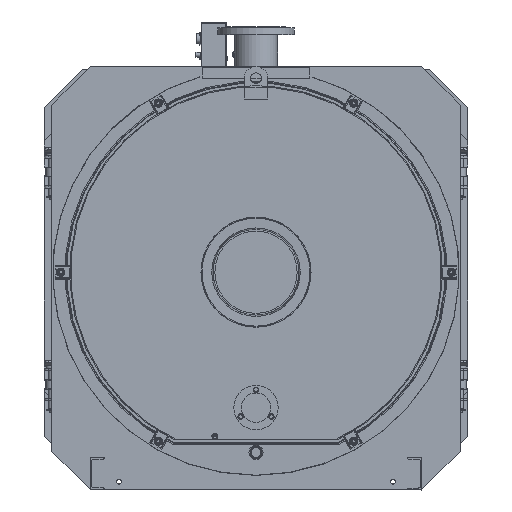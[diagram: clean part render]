
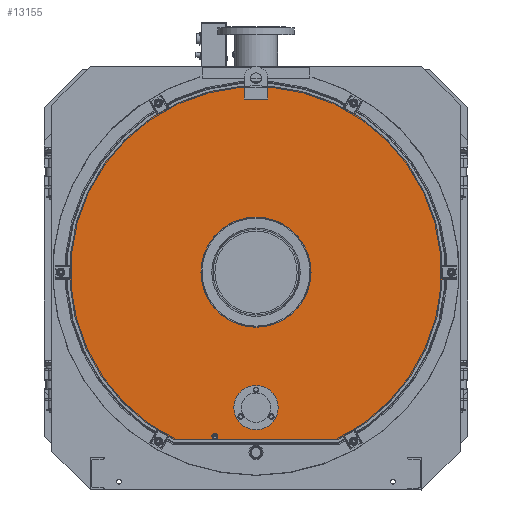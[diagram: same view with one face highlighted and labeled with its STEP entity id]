
A CAD part, left-side view. The second image highlights one B-rep face of the part: STEP entity #13155.
In plain terms, the highlighted planar face has unit normal (-1, 0, 0).
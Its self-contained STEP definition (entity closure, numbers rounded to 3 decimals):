
#13155=ADVANCED_FACE('',(#48461,#48463,#48465),#48467,.T.);
#48461=FACE_BOUND('',#48462,.T.);
#48462=EDGE_LOOP('',(#78277,#78278,#78279,#78280,#78281,#78282,#78283,#78284,#78285,
#78286));
#48463=FACE_BOUND('',#48464,.T.);
#48464=EDGE_LOOP('',(#78287));
#48465=FACE_BOUND('',#48466,.T.);
#48466=EDGE_LOOP('',(#78288));
#48467=PLANE('',#48468);
#48468=AXIS2_PLACEMENT_3D('',#48469,#48470,#48471);
#48469=CARTESIAN_POINT('',(-2921.,0.,0.));
#48470=DIRECTION('',(-1.,0.,0.));
#48471=DIRECTION('',(0.,-1.,0.));
#78277=ORIENTED_EDGE('',*,*,#90679,.F.);
#78278=ORIENTED_EDGE('',*,*,#90680,.F.);
#78279=ORIENTED_EDGE('',*,*,#90681,.F.);
#78280=ORIENTED_EDGE('',*,*,#90635,.T.);
#78281=ORIENTED_EDGE('',*,*,#90650,.T.);
#78282=ORIENTED_EDGE('',*,*,#90647,.T.);
#78283=ORIENTED_EDGE('',*,*,#90645,.T.);
#78284=ORIENTED_EDGE('',*,*,#90643,.T.);
#78285=ORIENTED_EDGE('',*,*,#90641,.T.);
#78286=ORIENTED_EDGE('',*,*,#90637,.T.);
#78287=ORIENTED_EDGE('',*,*,#90664,.T.);
#78288=ORIENTED_EDGE('',*,*,#90682,.F.);
#90635=EDGE_CURVE('',#100558,#100556,#100559,.T.);
#90637=EDGE_CURVE('',#100562,#100560,#100563,.T.);
#90641=EDGE_CURVE('',#100568,#100562,#100569,.T.);
#90643=EDGE_CURVE('',#100571,#100568,#100572,.F.);
#90645=EDGE_CURVE('',#100574,#100571,#100575,.F.);
#90647=EDGE_CURVE('',#100577,#100574,#100578,.F.);
#90650=EDGE_CURVE('',#100556,#100577,#100581,.T.);
#90664=EDGE_CURVE('',#100608,#100608,#100609,.F.);
#90679=EDGE_CURVE('',#100634,#100560,#100635,.T.);
#90680=EDGE_CURVE('',#100636,#100634,#100637,.T.);
#90681=EDGE_CURVE('',#100558,#100636,#100638,.T.);
#90682=EDGE_CURVE('',#100639,#100639,#100640,.T.);
#100556=VERTEX_POINT('',#131058);
#100558=VERTEX_POINT('',#131062);
#100559=CIRCLE('',#131063,680.);
#100560=VERTEX_POINT('',#131067);
#100562=VERTEX_POINT('',#131072);
#100563=CIRCLE('',#131073,680.);
#100568=VERTEX_POINT('',#131088);
#100569=LINE('',#131089,#131090);
#100571=VERTEX_POINT('',#131095);
#100572=LINE('',#131096,#131097);
#100574=VERTEX_POINT('',#131102);
#100575=CIRCLE('',#131103,11.);
#100577=VERTEX_POINT('',#131110);
#100578=LINE('',#131111,#131112);
#100581=LINE('',#131120,#131121);
#100608=VERTEX_POINT('',#131696);
#100609=CIRCLE('',#131697,201.);
#100634=VERTEX_POINT('',#132079);
#100635=LINE('',#132080,#132081);
#100636=VERTEX_POINT('',#132083);
#100637=LINE('',#132084,#132085);
#100638=LINE('',#132087,#132088);
#100639=VERTEX_POINT('',#132090);
#100640=CIRCLE('',#132091,81.);
#131058=CARTESIAN_POINT('',(-2921.,301.512,-609.5));
#131062=CARTESIAN_POINT('',(-2921.,43.,678.639));
#131063=AXIS2_PLACEMENT_3D('',#131064,#131065,#131066);
#131064=CARTESIAN_POINT('',(-2921.,0.,0.));
#131065=DIRECTION('',(-1.,0.,0.));
#131066=DIRECTION('',(0.,0.063,0.998));
#131067=CARTESIAN_POINT('',(-2921.,-43.,678.639));
#131072=CARTESIAN_POINT('',(-2921.,-301.512,-609.5));
#131073=AXIS2_PLACEMENT_3D('',#131074,#131075,#131076);
#131074=CARTESIAN_POINT('',(-2921.,0.,0.));
#131075=DIRECTION('',(-1.,0.,0.));
#131076=DIRECTION('',(0.,-0.443,-0.896));
#131088=CARTESIAN_POINT('',(-2921.,145.417,-609.5));
#131089=CARTESIAN_POINT('',(-2921.,145.417,-609.5));
#131090=VECTOR('',#131091,1.);
#131091=DIRECTION('',(0.,-1.,0.));
#131095=CARTESIAN_POINT('',(-2921.,145.417,-608.5));
#131096=CARTESIAN_POINT('',(-2921.,145.417,-609.5));
#131097=VECTOR('',#131098,1.);
#131098=DIRECTION('',(0.,0.,1.));
#131102=CARTESIAN_POINT('',(-2921.,154.583,-608.5));
#131103=AXIS2_PLACEMENT_3D('',#131104,#131105,#131106);
#131104=CARTESIAN_POINT('',(-2921.,150.,-598.5));
#131105=DIRECTION('',(-1.,0.,0.));
#131106=DIRECTION('',(0.,-0.417,-0.909));
#131110=CARTESIAN_POINT('',(-2921.,154.583,-609.5));
#131111=CARTESIAN_POINT('',(-2921.,154.583,-608.5));
#131112=VECTOR('',#131113,1.);
#131113=DIRECTION('',(0.,0.,-1.));
#131120=CARTESIAN_POINT('',(-2921.,301.512,-609.5));
#131121=VECTOR('',#131122,1.);
#131122=DIRECTION('',(0.,-1.,0.));
#131696=CARTESIAN_POINT('',(-2921.,-201.,0.));
#131697=AXIS2_PLACEMENT_3D('',#131698,#131699,#131700);
#131698=CARTESIAN_POINT('',(-2921.,0.,0.));
#131699=DIRECTION('',(-1.,0.,0.));
#131700=DIRECTION('',(0.,-1.,0.));
#132079=CARTESIAN_POINT('',(-2921.,-43.,632.));
#132080=CARTESIAN_POINT('',(-2921.,-43.,632.));
#132081=VECTOR('',#132082,1.);
#132082=DIRECTION('',(0.,0.,1.));
#132083=CARTESIAN_POINT('',(-2921.,43.,632.));
#132084=CARTESIAN_POINT('',(-2921.,43.,632.));
#132085=VECTOR('',#132086,1.);
#132086=DIRECTION('',(0.,-1.,0.));
#132087=CARTESIAN_POINT('',(-2921.,43.,678.639));
#132088=VECTOR('',#132089,1.);
#132089=DIRECTION('',(0.,0.,-1.));
#132090=CARTESIAN_POINT('',(-2921.,-81.,-494.5));
#132091=AXIS2_PLACEMENT_3D('',#132092,#132093,#132094);
#132092=CARTESIAN_POINT('',(-2921.,0.,-494.5));
#132093=DIRECTION('',(-1.,0.,0.));
#132094=DIRECTION('',(0.,-1.,0.));
